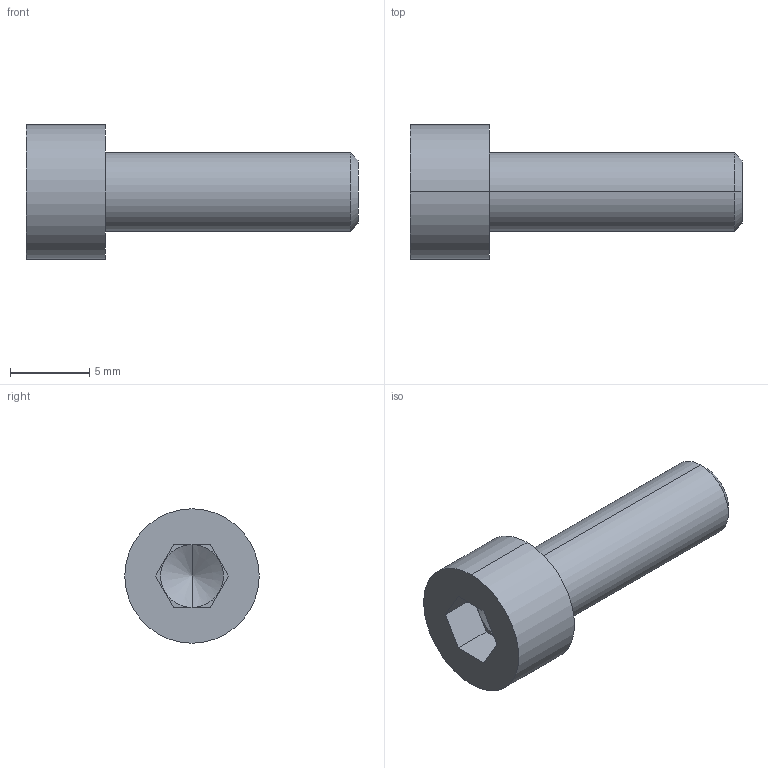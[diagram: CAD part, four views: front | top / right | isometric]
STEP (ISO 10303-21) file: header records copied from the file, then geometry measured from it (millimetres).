
FILE_DESCRIPTION (( 'STEP AP203' ), '1' );
FILE_NAME ('M5x16_DIN912.STEP', '2016-05-14T08:42:18', ( '' ), ( '' ), 'SwSTEP 2.0', 'SolidWorks 2014', '' );
FILE_SCHEMA (( 'CONFIG_CONTROL_DESIGN' ));
Length unit declared in the file: millimetre
Products named in the file (1): M5x16_DIN912
Bounding box: 21 x 8.5 x 8.5 mm (x, y, z)
Volume: 556.7 mm3; surface area: 530.1 mm2
Topology: 1 solids, 1 shells, 18 faces, 40 edges, 25 vertices
Faces by surface type: plane 10, cylinder 4, cone 4
Entity records: 563 total; most frequent: DIRECTION 88, CARTESIAN_POINT 82, ORIENTED_EDGE 76, EDGE_CURVE 38, AXIS2_PLACEMENT_3D 31, VECTOR 26, LINE 26, VERTEX_POINT 25
